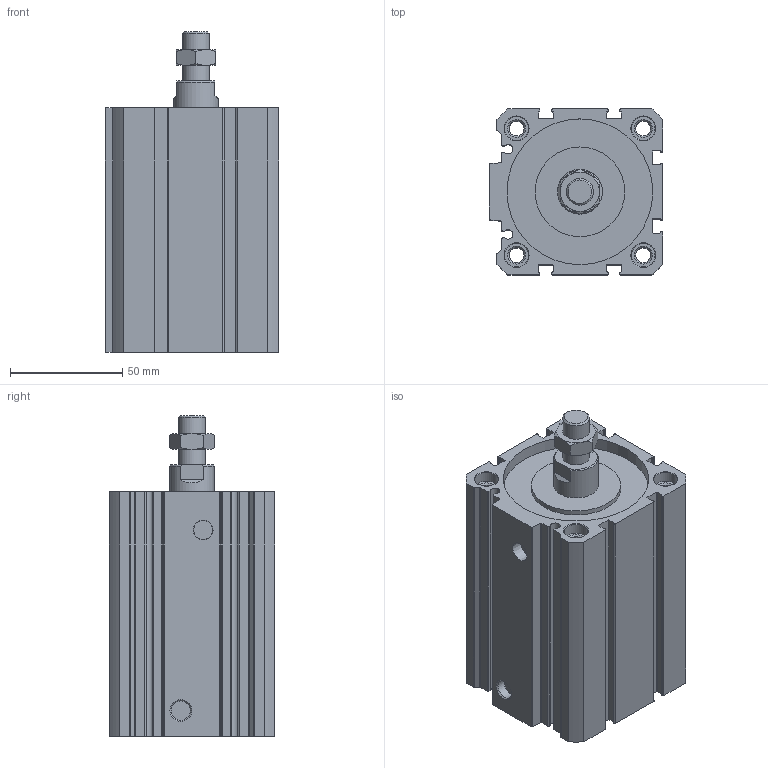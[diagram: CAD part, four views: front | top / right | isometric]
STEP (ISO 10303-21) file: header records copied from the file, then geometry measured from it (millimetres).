
FILE_DESCRIPTION( ( 'STEP AP214' ), '1' );
FILE_NAME( 'C:/Users/EMC02301/Desktop/RU0638 SF外牙 图纸/SF63X60-S-M.stp', '2026-07-24T09:56:25', ( 'License CC BY-ND 4.0' ), ( 'CADENAS' ), ' ', 'PARTsolutions', ' ' );
FILE_SCHEMA( ( 'AUTOMOTIVE_DESIGN { 1 0 10303 214 1 1 1 1 }' ) );
Length unit declared in the file: millimetre
Products named in the file (3): SF63X60-S-M()(04); _SF63X60()(_body) ; _SF63X60-M(rod-0)
Assembly tree (2 placements, depth 2):
  SF63X60-S-M()(04)
    _SF63X60()(_body) 
    _SF63X60-M(rod-0)
Bounding box: 77.5 x 74 x 143 mm (x, y, z)
Volume: 377520 mm3; surface area: 99317.4 mm2
Topology: 2 solids, 2 shells, 221 faces, 566 edges, 368 vertices
Faces by surface type: plane 99, cylinder 88, cone 34
Full cylindrical faces by diameter (mm): 6.647 x4, 8.566 x1, 10.5 x8, 12 x2, 20 x2, 40 x1, 63 x3, 65 x1
Entity records: 8414 total; most frequent: CARTESIAN_POINT 1256, DIRECTION 1154, ORIENTED_EDGE 1040, EDGE_CURVE 520, AXIS2_PLACEMENT_3D 438, VERTEX_POINT 364, EDGE_LOOP 290, LINE 278
